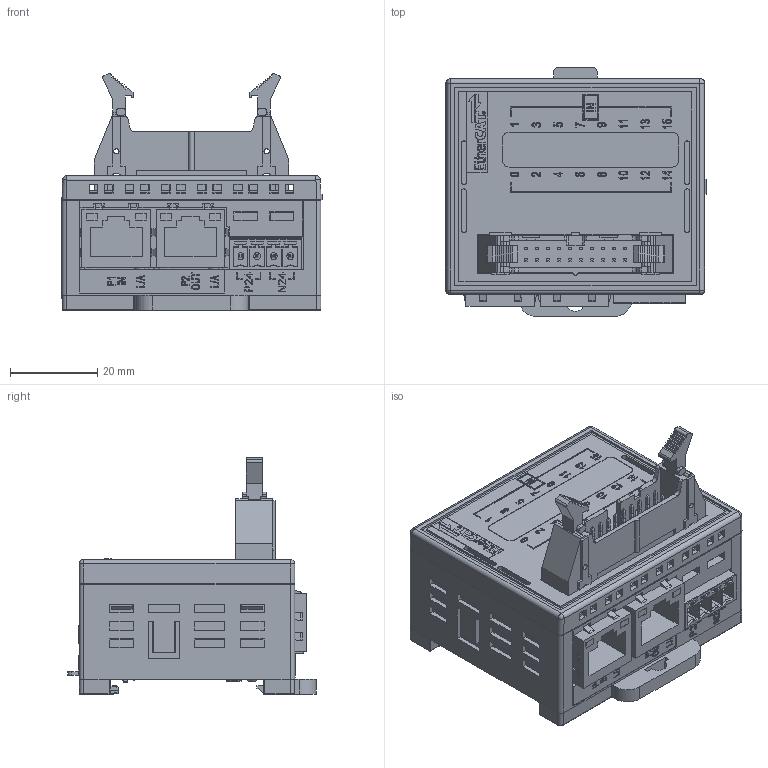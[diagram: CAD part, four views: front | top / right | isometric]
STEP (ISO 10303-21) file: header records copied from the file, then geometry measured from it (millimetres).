
FILE_DESCRIPTION((''),'2;1');
FILE_NAME('ECCMPF0','2026-05-11T14:22:18',('gijyu181'),(''),'CREO PARAMETRIC BY PTC INC, 2018050','CREO PARAMETRIC BY PTC INC, 2018050','');
FILE_SCHEMA(('CONFIG_CONTROL_DESIGN','SHAPE_APPEARANCE_LAYERS_GROUPS'));
Products named in the file (1): ECCMPF0
Bounding box: 59.75 x 57.15 x 54.5 mm (x, y, z)
Volume: 70721 mm3; surface area: 38761.2 mm2
Topology: 1 solids, 15 shells, 6191 faces, 17124 edges, 11263 vertices
Faces by surface type: plane 4725, cylinder 680, extrusion 672, sphere 44, torus 26, bspline 24, cone 20
Entity records: 246712 total; most frequent: CARTESIAN_POINT 43242, ORIENTED_EDGE 34220, DIRECTION 28491, EDGE_CURVE 17114, VECTOR 14739, LINE 14067, VERTEX_POINT 11263, PRESENTATION_STYLE_ASSIGNMENT 9412
